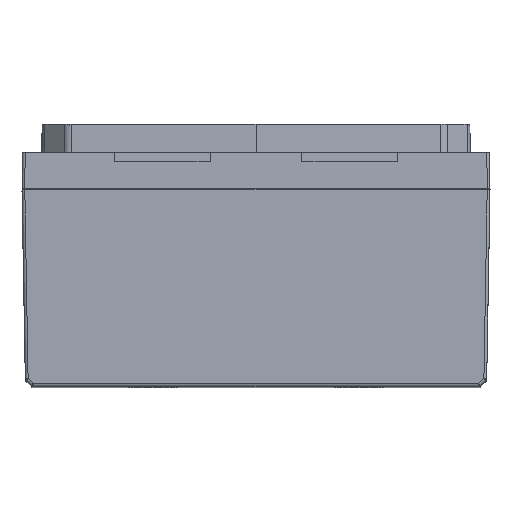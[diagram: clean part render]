
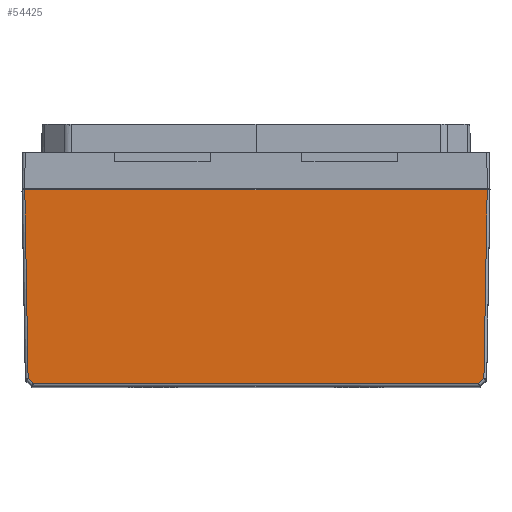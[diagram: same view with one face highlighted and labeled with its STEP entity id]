
A CAD part, top view. The second image highlights one B-rep face of the part: STEP entity #54425.
In plain terms, the highlighted planar face has unit normal (0, -0.018, 1).
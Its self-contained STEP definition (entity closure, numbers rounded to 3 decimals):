
#1475 = LINE ( 'NONE', #25838, #1482 ) ;
#1477 = LINE ( 'NONE', #25840, #1479 ) ;
#1479 = VECTOR ( 'NONE', #25847, 1000. ) ;
#1480 = LINE ( 'NONE', #25849, #1490 ) ;
#1481 = LINE ( 'NONE', #25857, #1484 ) ;
#1482 = VECTOR ( 'NONE', #25854, 1000. ) ;
#1483 = LINE ( 'NONE', #25862, #1486 ) ;
#1484 = VECTOR ( 'NONE', #25860, 1000. ) ;
#1486 = VECTOR ( 'NONE', #25865, 1000. ) ;
#1490 = VECTOR ( 'NONE', #25872, 1000. ) ;
#1739 = ORIENTED_EDGE ( 'NONE', *, *, #32186, .T. ) ;
#1752 = ORIENTED_EDGE ( 'NONE', *, *, #32191, .T. ) ;
#1795 = ORIENTED_EDGE ( 'NONE', *, *, #32189, .T. ) ;
#2104 = VERTEX_POINT ( 'NONE', #46763 ) ;
#2186 = VERTEX_POINT ( 'NONE', #46925 ) ;
#5417 = PLANE ( 'NONE',  #20375 ) ;
#5436 = CARTESIAN_POINT ( 'NONE',  ( -250., 0., 350. ) ) ;
#5437 = DIRECTION ( 'NONE',  ( 0., -0.017, 1. ) ) ;
#5438 = DIRECTION ( 'NONE',  ( 0., -1., -0.017 ) ) ;
#8442 = LINE ( 'NONE', #10614, #8448 ) ;
#8448 = VECTOR ( 'NONE', #10615, 1000. ) ;
#10614 = CARTESIAN_POINT ( 'NONE',  ( -250., 0., 350. ) ) ;
#10615 = DIRECTION ( 'NONE',  ( 1., 0., 0. ) ) ;
#20375 = AXIS2_PLACEMENT_3D ( 'NONE', #5436, #5437, #5438 ) ;
#25838 = CARTESIAN_POINT ( 'NONE',  ( -347.587, -97.557, 348.297 ) ) ;
#25840 = CARTESIAN_POINT ( 'NONE',  ( 97.625, -347.519, 343.934 ) ) ;
#25847 = DIRECTION ( 'NONE',  ( 0.707, 0.707, 0.012 ) ) ;
#25849 = CARTESIAN_POINT ( 'NONE',  ( 246.849, -8.67, 349.849 ) ) ;
#25854 = DIRECTION ( 'NONE',  ( 0.707, -0.707, -0.012 ) ) ;
#25857 = CARTESIAN_POINT ( 'NONE',  ( -247.001, 0.052, 350.001 ) ) ;
#25860 = DIRECTION ( 'NONE',  ( 0.017, -1., -0.017 ) ) ;
#25862 = CARTESIAN_POINT ( 'NONE',  ( 239.334, -207.052, 346.386 ) ) ;
#25865 = DIRECTION ( 'NONE',  ( 1., 0., 0. ) ) ;
#25872 = DIRECTION ( 'NONE',  ( 0.017, 1., 0.017 ) ) ;
#32186 = EDGE_CURVE ( 'NONE', #2104, #48660, #1477, .T. ) ;
#32187 = EDGE_CURVE ( 'NONE', #48659, #2186, #1475, .T. ) ;
#32188 = EDGE_CURVE ( 'NONE', #48687, #48659, #1481, .T. ) ;
#32189 = EDGE_CURVE ( 'NONE', #2186, #2104, #1483, .T. ) ;
#32191 = EDGE_CURVE ( 'NONE', #48660, #48689, #1480, .T. ) ;
#41061 = ORIENTED_EDGE ( 'NONE', *, *, #32187, .T. ) ;
#41598 = EDGE_CURVE ( 'NONE', #48687, #48689, #8442, .T. ) ;
#43550 = EDGE_LOOP ( 'NONE', ( #1795, #1739, #1752, #56808, #57237, #41061 ) ) ;
#46763 = CARTESIAN_POINT ( 'NONE',  ( 238.092, -207.052, 346.386 ) ) ;
#46925 = CARTESIAN_POINT ( 'NONE',  ( -238.092, -207.052, 346.386 ) ) ;
#48659 = VERTEX_POINT ( 'NONE', #51150 ) ;
#48660 = VERTEX_POINT ( 'NONE', #51151 ) ;
#48687 = VERTEX_POINT ( 'NONE', #51172 ) ;
#48689 = VERTEX_POINT ( 'NONE', #51173 ) ;
#50187 = FACE_OUTER_BOUND ( 'NONE', #43550, .T. ) ;
#51150 = CARTESIAN_POINT ( 'NONE',  ( -243.48, -201.664, 346.48 ) ) ;
#51151 = CARTESIAN_POINT ( 'NONE',  ( 243.48, -201.664, 346.48 ) ) ;
#51172 = CARTESIAN_POINT ( 'NONE',  ( -247., 0., 350. ) ) ;
#51173 = CARTESIAN_POINT ( 'NONE',  ( 247., 0., 350. ) ) ;
#54425 = ADVANCED_FACE ( 'NONE', ( #50187 ), #5417, .T. ) ;
#56808 = ORIENTED_EDGE ( 'NONE', *, *, #41598, .F. ) ;
#57237 = ORIENTED_EDGE ( 'NONE', *, *, #32188, .T. ) ;
